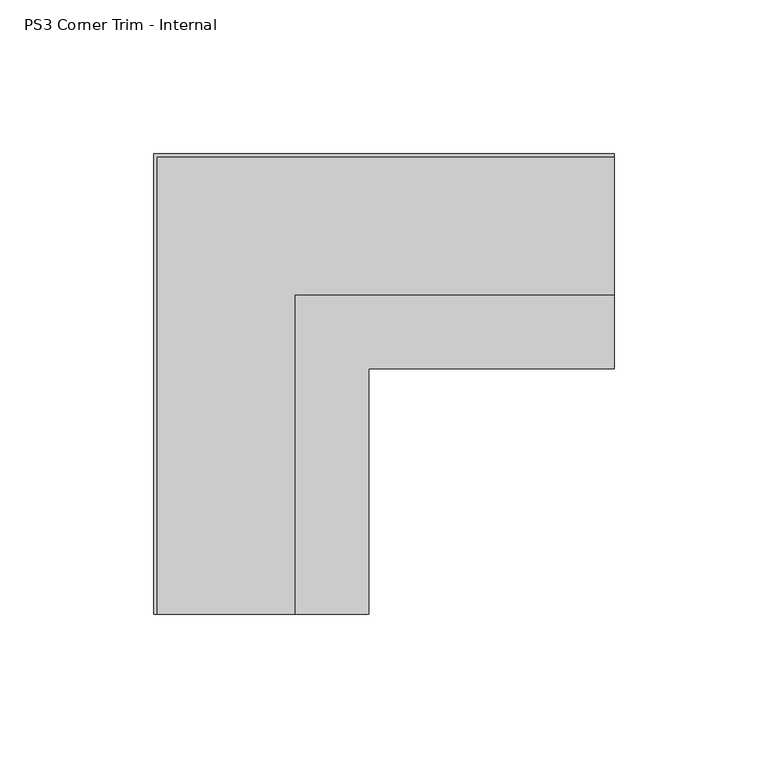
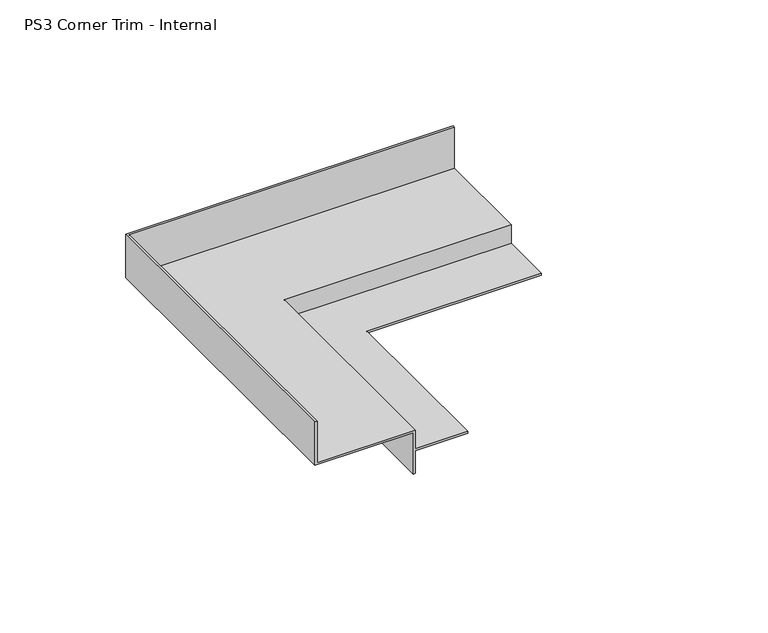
"""IFC4 building model written with IfcOpenShell, lengths in millimetres: proxy geometry, PS3 Corner Trim - Internal : Trims Pelican Systems Plaster Trim 35 x 35."""

from ifc_helpers import new_model, si_unit, origin, place, context, project, spatial, faceted_brep, source, transform, mapped, element, save


def ps3_corner_trim_internal_1c7d912d(model_context):
    return source(origin(), model_context, "Body", "Brep", [
        faceted_brep([(-30.0, -120.0, 21.0), (-30.0, -120.0, 0.0), (15.0, -120.0, 0.0), (15.0, -120.0, -20.0), (16.0, -120.0, -20.0), (16.0, -120.0, -9.0), (40.0, -120.0, -9.0), (40.0, -120.0, -8.0), (16.0, -120.0, -8.0), (16.0, -120.0, 1.0), (-29.0, -120.0, 1.0), (-29.0, -120.0, 21.0), (120.0, 30.0, 21.0), (120.0, 29.0, 21.0), (120.0, 29.0, 1.0), (120.0, -16.0, 1.0), (120.0, -16.0, -8.0), (120.0, -40.0, -8.0), (120.0, -40.0, -9.0), (120.0, -16.0, -9.0), (120.0, -16.0, -20.0), (120.0, -15.0, -20.0), (120.0, -15.0, 0.0), (120.0, 30.0, 0.0), (-30.0, 30.0, 0.0), (-30.0, 30.0, 21.0), (15.0, -15.0, -20.0), (15.0, -15.0, 0.0), (16.0, -16.0, 1.0), (16.0, -16.0, -8.0), (-29.0, 29.0, 21.0), (-29.0, 29.0, 1.0), (16.0, -16.0, -9.0), (16.0, -16.0, -20.0), (40.0, -40.0, -8.0), (40.0, -40.0, -9.0)], [[[0, 1, 2, 3, 4, 5, 6, 7, 8, 9, 10, 11]], [[12, 13, 14, 15, 16, 17, 18, 19, 20, 21, 22, 23]], [[24, 25, 12, 23]], [[26, 27, 22, 21]], [[28, 29, 16, 15]], [[30, 31, 14, 13]], [[32, 33, 20, 19]], [[34, 35, 18, 17]], [[1, 0, 25, 24]], [[2, 1, 24, 23, 22, 27]], [[3, 2, 27, 26]], [[4, 3, 26, 21, 20, 33]], [[5, 4, 33, 32]], [[6, 5, 32, 19, 18, 35]], [[7, 6, 35, 34]], [[8, 7, 34, 17, 16, 29]], [[9, 8, 29, 28]], [[10, 9, 28, 15, 14, 31]], [[11, 10, 31, 30]], [[0, 11, 30, 13, 12, 25]]]),
    ])


if __name__ == "__main__":
    model = new_model("IFC4")
    model_context = context("Model", 3, world=origin())
    ifc_project = project(units=[si_unit("LENGTHUNIT", "METRE", prefix="MILLI")], contexts=[model_context])
    site = spatial("IfcSite", under=ifc_project)
    building = spatial("IfcBuilding", under=site)
    placement = place(None, origin())
    ps3_corner_trim_internal_shape = ps3_corner_trim_internal_1c7d912d(model_context)
    element("IfcBuildingElementProxy", 1, Name="PS3 Corner Trim - Internal : Trims Pelican Systems Plaster Trim 35 x 35", ObjectType="PS3 Corner Trim - Internal : Trims Pelican Systems Plaster Trim 35 x 35", at=placement, inside=building, context=model_context, shape_type="MappedRepresentation", body=[
        mapped(ps3_corner_trim_internal_shape, transform((0.0, 0.0, 0.0), x_axis=(1.0, 0.0, 0.0), y_axis=(0.0, 1.0, 0.0), z_axis=(0.0, 0.0, 1.0))),
    ])
    save(model, "model.ifc")
